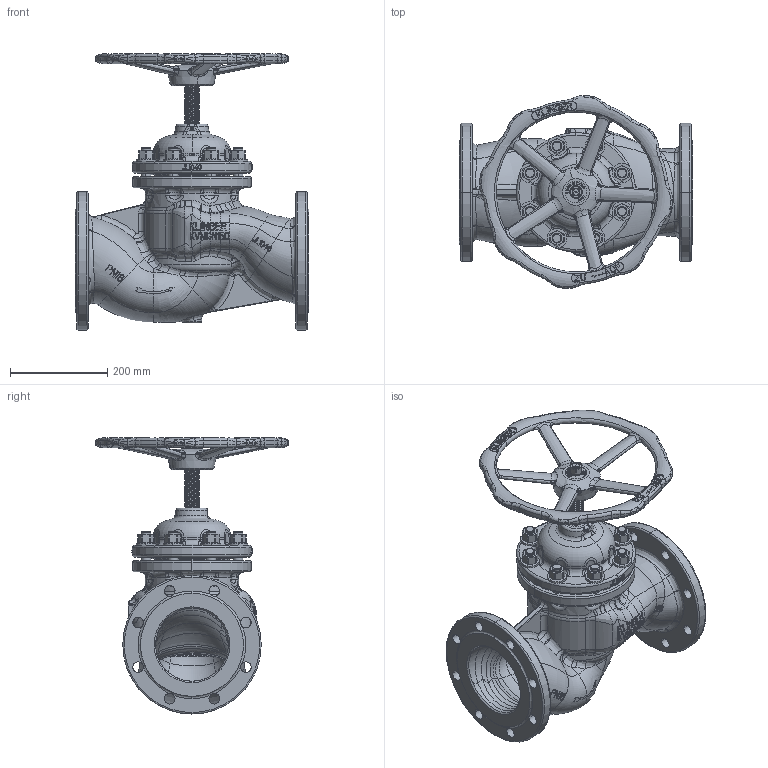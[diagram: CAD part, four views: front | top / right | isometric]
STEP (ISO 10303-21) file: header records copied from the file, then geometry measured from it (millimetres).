
FILE_DESCRIPTION((''),'2;1');
FILE_NAME('KVNFL150S-----P016DGG_SW0001','2015-02-18T',('schwaba'),('RAND'),'PRO/ENGINEER BY PARAMETRIC TECHNOLOGY CORPORATION, 2013410','PRO/ENGINEER BY PARAMETRIC TECHNOLOGY CORPORATION, 2013410','');
FILE_SCHEMA(('CONFIG_CONTROL_DESIGN'));
Products named in the file (1): KVNFL150S-----P016DGG_SW0001
Bounding box: 480 x 397.45 x 568.2 mm (x, y, z)
Volume: 12178634 mm3; surface area: 1485981.8 mm2
Topology: 3 solids, 3 shells, 3661 faces, 9583 edges, 6012 vertices
Faces by surface type: plane 1753, bspline 1019, cylinder 538, torus 189, cone 147, sphere 8, extrusion 7
Entity records: 413424 total; most frequent: CARTESIAN_POINT 333171, ORIENTED_EDGE 19154, DIRECTION 13047, EDGE_CURVE 9577, VERTEX_POINT 6012, AXIS2_PLACEMENT_3D 4559, VECTOR 3929, LINE 3922
